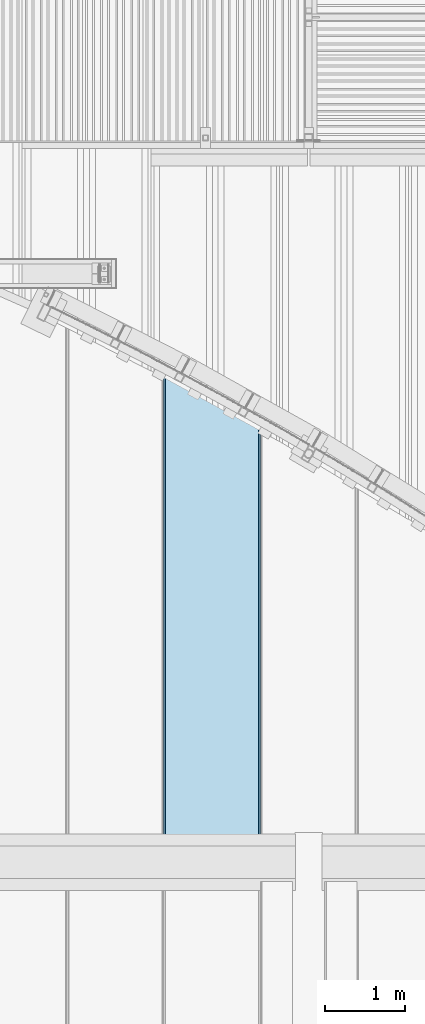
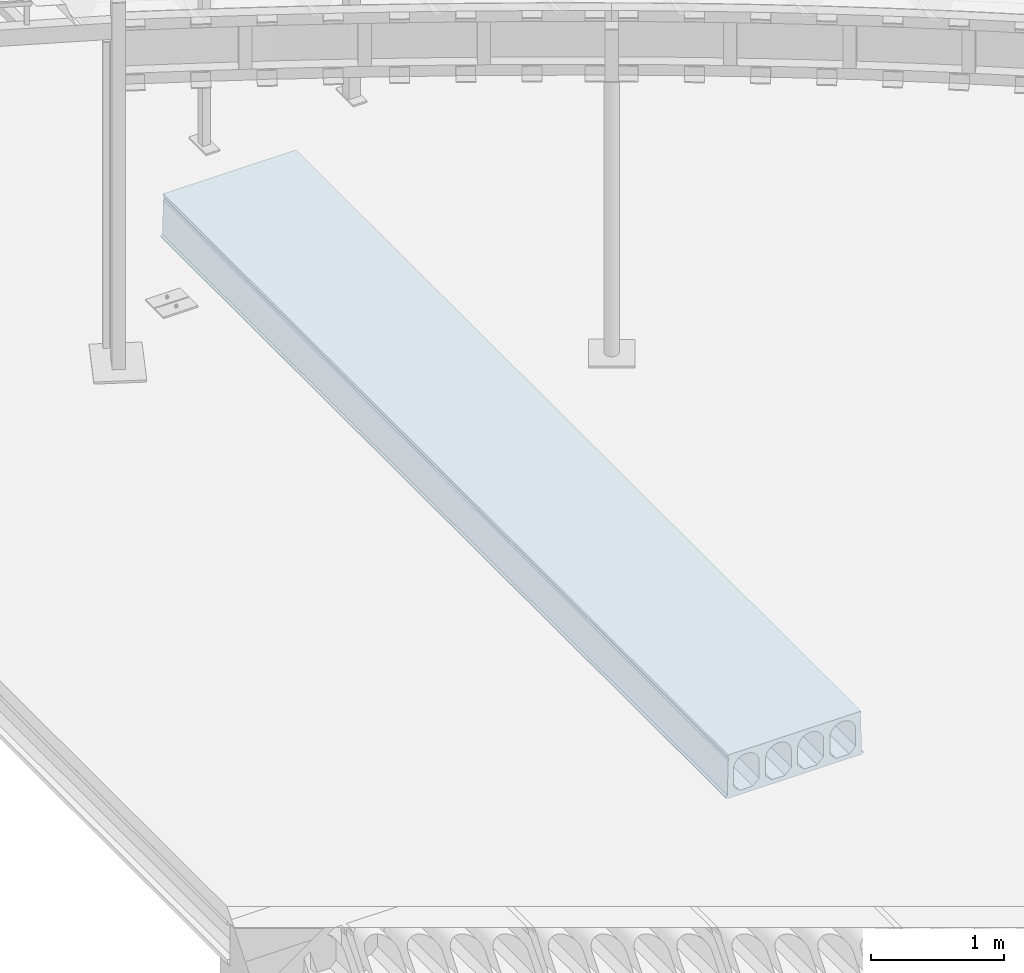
# One storey, part 56 of 98: 1 slab.
"""IFC2X3 building model written with IfcOpenShell, lengths in millimetres."""

from ifc_helpers import new_model, entity, si_unit, converted_unit, derived_unit, direction, frame, origin_with_axes, place, context, subcontext, project, spatial, faceted_brep, material, type_object, element, save


model = new_model("IFC2X3")

# Units and contexts
model_context = context("Model", 3, precision=0.01, world=frame((0.0, 4.29681676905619e-09, 0.0)), true_north=direction((4.01073788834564e-13, 1.0)))
plan_context = context("Plan", 3, precision=0.01, world=frame((0.0, 4.29681676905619e-09, 0.0)), true_north=direction((4.01073788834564e-13, 1.0)))
body_context = subcontext(model_context, "Body", "Model", "MODEL_VIEW")
ifc_project = project(units=[converted_unit("PLANEANGLEUNIT", "DEGREE", entity("IfcPositiveLengthMeasure", 0.0174532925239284), si_unit("PLANEANGLEUNIT", "RADIAN"), dimensions=[0, 0, 0, 0, 0, 0, 0]), si_unit("AREAUNIT", "SQUARE_METRE"), si_unit("LENGTHUNIT", "METRE", prefix="MILLI"), si_unit("MASSUNIT", "GRAM", prefix="KILO"), si_unit("POWERUNIT", "WATT"), si_unit("PRESSUREUNIT", "PASCAL"), si_unit("FORCEUNIT", "NEWTON", prefix="KILO"), si_unit("ELECTRICCURRENTUNIT", "AMPERE"), si_unit("THERMODYNAMICTEMPERATUREUNIT", "DEGREE_CELSIUS"), si_unit("TIMEUNIT", "SECOND"), si_unit("VOLUMEUNIT", "CUBIC_METRE"), derived_unit("LINEARVELOCITYUNIT", [(si_unit("LENGTHUNIT", "METRE"), 1), (si_unit("TIMEUNIT", "SECOND"), -1)]), derived_unit("VOLUMETRICFLOWRATEUNIT", [(si_unit("VOLUMEUNIT", "CUBIC_METRE"), 1), (si_unit("TIMEUNIT", "SECOND"), -1)]), derived_unit("THERMALTRANSMITTANCEUNIT", [(si_unit("POWERUNIT", "WATT"), 1), (si_unit("THERMODYNAMICTEMPERATUREUNIT", "KELVIN"), -1), (si_unit("AREAUNIT", "SQUARE_METRE"), -1)])], contexts=[model_context, plan_context])

# Site, building, storey
site_placement = place(None, frame((0.0, -4.29681676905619e-09, 0.0), z_axis=(0.0, 0.0, 1.0), x_axis=(1.0, 0.0, 0.0)))
site = spatial("IfcSite", under=ifc_project, at=site_placement, Name="Gardermoen", CompositionType="ELEMENT")
building_placement = place(site_placement, frame((0.0, 4.29681676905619e-09, 0.0), z_axis=(0.0, 0.0, 1.0), x_axis=(1.0, 0.0, 0.0)))
building = spatial("IfcBuilding", under=site, at=building_placement, Name="TS", CompositionType="ELEMENT")
storey_placement = place(building_placement, origin_with_axes())
storey = spatial("IfcBuildingStorey", under=building, at=storey_placement, Name="D", CompositionType="ELEMENT", Elevation=0.0)

# Slab
ifc_material = material(Name="CONCRETE/C45/55")
slab_type = type_object("IfcSlabType", Name="HD400", PredefinedType="NOTDEFINED")
slab_placement = place(storey_placement, frame((518799.999766, 405739.995625, 203600.0), z_axis=(0.0, 0.0, 1.0), x_axis=(0.0, 1.0, 0.0)))
element("IfcSlab", 1, at=slab_placement, inside=storey, type_object=slab_type, material=ifc_material, Name="HULLDEKKE", ObjectType="HD400", PredefinedType="FLOOR", context=body_context, shape_type="Brep", body=[
    faceted_brep([(0.0, 600.0, -190.0), (0.0, 600.0, -180.0), (8520.00875000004, 600.0, -180.0), (8520.00875000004, 600.0, -190.0), (0.0, 585.0, -170.0), (8520.00875000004, 585.0, -170.0), (0.0, 577.5, 145.0), (8520.00875000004, 577.5, 145.0), (0.0, 570.0, 160.0), (8520.00875000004, 570.0, 160.0), (0.0, 577.5, 175.0), (8520.00875000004, 577.5, 175.0), (0.0, 577.5, 200.0), (8520.00875000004, 577.5, 200.0), (0.0, -577.5, 200.0), (8520.00875000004, -577.5, 200.0), (0.0, -577.5, 175.0), (8520.00875000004, -577.5, 175.0), (0.0, -570.0, 160.0), (8520.00875000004, -570.0, 160.0), (0.0, -577.5, 145.0), (8520.00875000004, -577.5, 145.0), (0.0, -585.0, -170.0), (8520.00875000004, -585.0, -170.0), (0.0, -600.0, -180.0), (8520.00875000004, -600.0, -180.0), (0.0, -600.0, -190.0), (8520.00875000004, -600.0, -190.0), (0.0, -583.380004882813, -200.0), (8520.00875000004, -583.380004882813, -200.0), (0.0, 583.380004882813, -200.0), (8520.00875000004, 583.380004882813, -200.0), (0.0, -362.5, -160.0), (0.0, -477.5, -160.0), (8520.00875000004, -477.5, -160.0), (8520.00875000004, -362.5, -160.0), (0.0, -532.5, -105.0), (8520.00875000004, -532.5, -105.0), (0.0, -532.5, 47.5), (8520.00875000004, -532.5, 47.5), (0.0, -532.115755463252, 56.7901763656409), (8520.00875000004, -532.115755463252, 56.7901763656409), (0.0, -530.965646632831, 66.0168914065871), (8520.00875000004, -530.965646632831, 66.0168914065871), (0.0, -529.057529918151, 75.1171173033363), (8520.00875000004, -529.057529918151, 75.1171173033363), (0.0, -526.404439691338, 84.028690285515), (8520.00875000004, -526.404439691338, 84.028690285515), (0.0, -523.024499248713, 92.6907352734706), (8520.00875000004, -523.024499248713, 92.6907352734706), (0.0, -518.940797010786, 101.044081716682), (8520.00875000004, -518.940797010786, 101.044081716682), (0.0, -514.181228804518, 109.031667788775), (8520.00875000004, -514.181228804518, 109.031667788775), (0.0, -508.778307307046, 116.598930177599), (8520.00875000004, -508.778307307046, 116.598930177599), (0.0, -502.768939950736, 123.694176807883), (8520.00875000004, -502.768939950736, 123.694176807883), (0.0, -496.194176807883, 130.268939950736), (8520.00875000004, -496.194176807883, 130.268939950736), (0.0, -489.098930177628, 136.278307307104), (8520.00875000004, -489.098930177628, 136.278307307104), (0.0, -481.531667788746, 141.681228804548), (8520.00875000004, -481.531667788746, 141.681228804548), (0.0, -473.544081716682, 146.440797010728), (8520.00875000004, -473.544081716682, 146.440797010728), (0.0, -465.190735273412, 150.524499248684), (8520.00875000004, -465.190735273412, 150.524499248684), (0.0, -456.528690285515, 153.904439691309), (8520.00875000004, -456.528690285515, 153.904439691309), (0.0, -447.617117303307, 156.55752991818), (8520.00875000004, -447.617117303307, 156.55752991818), (0.0, -438.516891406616, 158.465646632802), (8520.00875000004, -438.516891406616, 158.465646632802), (0.0, -429.290176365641, 159.615755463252), (8520.00875000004, -429.290176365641, 159.615755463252), (0.0, -420.0, 160.0), (8520.00875000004, -420.0, 160.0), (0.0, -410.709823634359, 159.615755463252), (8520.00875000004, -410.709823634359, 159.615755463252), (0.0, -401.483108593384, 158.465646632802), (8520.00875000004, -401.483108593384, 158.465646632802), (0.0, -392.382882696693, 156.55752991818), (8520.00875000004, -392.382882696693, 156.55752991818), (0.0, -383.471309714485, 153.904439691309), (8520.00875000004, -383.471309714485, 153.904439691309), (0.0, -374.809264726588, 150.524499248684), (8520.00875000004, -374.809264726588, 150.524499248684), (0.0, -366.455918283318, 146.440797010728), (8520.00875000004, -366.455918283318, 146.440797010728), (0.0, -358.468332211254, 141.681228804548), (8520.00875000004, -358.468332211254, 141.681228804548), (0.0, -350.901069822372, 136.278307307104), (8520.00875000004, -350.901069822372, 136.278307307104), (0.0, -343.805823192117, 130.268939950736), (8520.00875000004, -343.805823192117, 130.268939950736), (0.0, -337.231060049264, 123.694176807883), (8520.00875000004, -337.231060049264, 123.694176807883), (0.0, -331.221692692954, 116.598930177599), (8520.00875000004, -331.221692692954, 116.598930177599), (0.0, -325.818771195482, 109.031667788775), (8520.00875000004, -325.818771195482, 109.031667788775), (0.0, -321.059202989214, 101.044081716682), (8520.00875000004, -321.059202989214, 101.044081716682), (0.0, -316.975500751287, 92.6907352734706), (8520.00875000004, -316.975500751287, 92.6907352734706), (0.0, -313.595560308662, 84.028690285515), (8520.00875000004, -313.595560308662, 84.028690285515), (0.0, -310.942470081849, 75.1171173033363), (8520.00875000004, -310.942470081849, 75.1171173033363), (0.0, -309.034353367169, 66.0168914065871), (8520.00875000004, -309.034353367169, 66.0168914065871), (0.0, -307.884244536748, 56.7901763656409), (8520.00875000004, -307.884244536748, 56.7901763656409), (0.0, -307.5, 47.5), (8520.00875000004, -307.5, 47.5), (0.0, -307.5, -105.0), (8520.00875000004, -307.5, -105.0), (0.0, -82.5, -160.0), (0.0, -197.5, -160.0), (8520.00875000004, -197.5, -160.0), (8520.00875000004, -82.5, -160.0), (0.0, -252.5, -105.0), (8520.00875000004, -252.5, -105.0), (0.0, -252.5, 47.5), (8520.00875000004, -252.5, 47.5), (0.0, -252.115755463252, 56.7901763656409), (8520.00875000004, -252.115755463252, 56.7901763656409), (0.0, -250.965646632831, 66.0168914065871), (8520.00875000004, -250.965646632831, 66.0168914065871), (0.0, -249.057529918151, 75.1171173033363), (8520.00875000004, -249.057529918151, 75.1171173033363), (0.0, -246.404439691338, 84.028690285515), (8520.00875000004, -246.404439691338, 84.028690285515), (0.0, -243.024499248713, 92.6907352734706), (8520.00875000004, -243.024499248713, 92.6907352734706), (0.0, -238.940797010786, 101.044081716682), (8520.00875000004, -238.940797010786, 101.044081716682), (0.0, -234.181228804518, 109.031667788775), (8520.00875000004, -234.181228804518, 109.031667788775), (0.0, -228.778307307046, 116.598930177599), (8520.00875000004, -228.778307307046, 116.598930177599), (0.0, -222.768939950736, 123.694176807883), (8520.00875000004, -222.768939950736, 123.694176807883), (0.0, -216.194176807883, 130.268939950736), (8520.00875000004, -216.194176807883, 130.268939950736), (0.0, -209.098930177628, 136.278307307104), (8520.00875000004, -209.098930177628, 136.278307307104), (0.0, -201.531667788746, 141.681228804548), (8520.00875000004, -201.531667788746, 141.681228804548), (0.0, -193.544081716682, 146.440797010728), (8520.00875000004, -193.544081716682, 146.440797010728), (0.0, -185.190735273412, 150.524499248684), (8520.00875000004, -185.190735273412, 150.524499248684), (0.0, -176.528690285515, 153.904439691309), (8520.00875000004, -176.528690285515, 153.904439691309), (0.0, -167.617117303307, 156.55752991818), (8520.00875000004, -167.617117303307, 156.55752991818), (0.0, -158.516891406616, 158.465646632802), (8520.00875000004, -158.516891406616, 158.465646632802), (0.0, -149.290176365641, 159.615755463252), (8520.00875000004, -149.290176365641, 159.615755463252), (0.0, -140.0, 160.0), (8520.00875000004, -140.0, 160.0), (0.0, -130.709823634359, 159.615755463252), (8520.00875000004, -130.709823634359, 159.615755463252), (0.0, -121.483108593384, 158.465646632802), (8520.00875000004, -121.483108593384, 158.465646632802), (0.0, -112.382882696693, 156.55752991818), (8520.00875000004, -112.382882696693, 156.55752991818), (0.0, -103.471309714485, 153.904439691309), (8520.00875000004, -103.471309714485, 153.904439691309), (0.0, -94.8092647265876, 150.524499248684), (8520.00875000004, -94.8092647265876, 150.524499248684), (0.0, -86.4559182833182, 146.440797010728), (8520.00875000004, -86.4559182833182, 146.440797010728), (0.0, -78.4683322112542, 141.681228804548), (8520.00875000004, -78.4683322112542, 141.681228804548), (0.0, -70.9010698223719, 136.278307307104), (8520.00875000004, -70.9010698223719, 136.278307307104), (0.0, -63.8058231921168, 130.268939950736), (8520.00875000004, -63.8058231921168, 130.268939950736), (0.0, -57.2310600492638, 123.694176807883), (8520.00875000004, -57.2310600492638, 123.694176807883), (0.0, -51.2216926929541, 116.598930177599), (8520.00875000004, -51.2216926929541, 116.598930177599), (0.0, -45.8187711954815, 109.031667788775), (8520.00875000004, -45.8187711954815, 109.031667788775), (0.0, -41.0592029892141, 101.044081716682), (8520.00875000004, -41.0592029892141, 101.044081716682), (0.0, -36.9755007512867, 92.6907352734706), (8520.00875000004, -36.9755007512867, 92.6907352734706), (0.0, -33.5955603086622, 84.028690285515), (8520.00875000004, -33.5955603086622, 84.028690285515), (0.0, -30.942470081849, 75.1171173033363), (8520.00875000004, -30.942470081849, 75.1171173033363), (0.0, -29.0343533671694, 66.0168914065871), (8520.00875000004, -29.0343533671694, 66.0168914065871), (0.0, -27.8842445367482, 56.7901763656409), (8520.00875000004, -27.8842445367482, 56.7901763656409), (0.0, -27.5, 47.5), (8520.00875000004, -27.5, 47.5), (0.0, -27.5, -105.0), (8520.00875000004, -27.5, -105.0), (0.0, 197.5, -160.0), (0.0, 82.5, -160.0), (8520.00875000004, 82.5, -160.0), (8520.00875000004, 197.5, -160.0), (0.0, 27.5, -105.0), (8520.00875000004, 27.5, -105.0), (0.0, 27.5, 47.5), (8520.00875000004, 27.5, 47.5), (0.0, 27.8842445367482, 56.7901763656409), (8520.00875000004, 27.8842445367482, 56.7901763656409), (0.0, 29.0343533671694, 66.0168914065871), (8520.00875000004, 29.0343533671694, 66.0168914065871), (0.0, 30.942470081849, 75.1171173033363), (8520.00875000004, 30.942470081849, 75.1171173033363), (0.0, 33.5955603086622, 84.028690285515), (8520.00875000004, 33.5955603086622, 84.028690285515), (0.0, 36.9755007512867, 92.6907352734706), (8520.00875000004, 36.9755007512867, 92.6907352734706), (0.0, 41.0592029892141, 101.044081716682), (8520.00875000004, 41.0592029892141, 101.044081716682), (0.0, 45.8187711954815, 109.031667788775), (8520.00875000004, 45.8187711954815, 109.031667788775), (0.0, 51.2216926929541, 116.598930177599), (8520.00875000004, 51.2216926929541, 116.598930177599), (0.0, 57.2310600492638, 123.694176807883), (8520.00875000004, 57.2310600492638, 123.694176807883), (0.0, 63.8058231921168, 130.268939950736), (8520.00875000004, 63.8058231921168, 130.268939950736), (0.0, 70.9010698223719, 136.278307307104), (8520.00875000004, 70.9010698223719, 136.278307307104), (0.0, 78.4683322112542, 141.681228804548), (8520.00875000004, 78.4683322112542, 141.681228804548), (0.0, 86.4559182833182, 146.440797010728), (8520.00875000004, 86.4559182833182, 146.440797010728), (0.0, 94.8092647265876, 150.524499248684), (8520.00875000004, 94.8092647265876, 150.524499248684), (0.0, 103.471309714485, 153.904439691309), (8520.00875000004, 103.471309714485, 153.904439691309), (0.0, 112.382882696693, 156.55752991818), (8520.00875000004, 112.382882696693, 156.55752991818), (0.0, 121.483108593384, 158.465646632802), (8520.00875000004, 121.483108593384, 158.465646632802), (0.0, 130.709823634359, 159.615755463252), (8520.00875000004, 130.709823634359, 159.615755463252), (0.0, 140.0, 160.0), (8520.00875000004, 140.0, 160.0), (0.0, 149.290176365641, 159.615755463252), (8520.00875000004, 149.290176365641, 159.615755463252), (0.0, 158.516891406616, 158.465646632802), (8520.00875000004, 158.516891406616, 158.465646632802), (0.0, 167.617117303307, 156.55752991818), (8520.00875000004, 167.617117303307, 156.55752991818), (0.0, 176.528690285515, 153.904439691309), (8520.00875000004, 176.528690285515, 153.904439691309), (0.0, 185.190735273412, 150.524499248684), (8520.00875000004, 185.190735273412, 150.524499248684), (0.0, 193.544081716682, 146.440797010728), (8520.00875000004, 193.544081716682, 146.440797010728), (0.0, 201.531667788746, 141.681228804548), (8520.00875000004, 201.531667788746, 141.681228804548), (0.0, 209.098930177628, 136.278307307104), (8520.00875000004, 209.098930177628, 136.278307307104), (0.0, 216.194176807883, 130.268939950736), (8520.00875000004, 216.194176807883, 130.268939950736), (0.0, 222.768939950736, 123.694176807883), (8520.00875000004, 222.768939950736, 123.694176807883), (0.0, 228.778307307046, 116.598930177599), (8520.00875000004, 228.778307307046, 116.598930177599), (0.0, 234.181228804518, 109.031667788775), (8520.00875000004, 234.181228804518, 109.031667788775), (0.0, 238.940797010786, 101.044081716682), (8520.00875000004, 238.940797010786, 101.044081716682), (0.0, 243.024499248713, 92.6907352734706), (8520.00875000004, 243.024499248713, 92.6907352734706), (0.0, 246.404439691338, 84.028690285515), (8520.00875000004, 246.404439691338, 84.028690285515), (0.0, 249.057529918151, 75.1171173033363), (8520.00875000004, 249.057529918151, 75.1171173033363), (0.0, 250.965646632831, 66.0168914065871), (8520.00875000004, 250.965646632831, 66.0168914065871), (0.0, 252.115755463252, 56.7901763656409), (8520.00875000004, 252.115755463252, 56.7901763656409), (0.0, 252.5, 47.5), (8520.00875000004, 252.5, 47.5), (0.0, 252.5, -105.0), (8520.00875000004, 252.5, -105.0), (0.0, 477.5, -160.0), (0.0, 362.5, -160.0), (8520.00875000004, 362.5, -160.0), (8520.00875000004, 477.5, -160.0), (0.0, 307.5, -105.0), (8520.00875000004, 307.5, -105.0), (0.0, 307.5, 47.5), (8520.00875000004, 307.5, 47.5), (0.0, 307.884244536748, 56.7901763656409), (8520.00875000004, 307.884244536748, 56.7901763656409), (0.0, 309.034353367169, 66.0168914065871), (8520.00875000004, 309.034353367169, 66.0168914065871), (0.0, 310.942470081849, 75.1171173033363), (8520.00875000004, 310.942470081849, 75.1171173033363), (0.0, 313.595560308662, 84.028690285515), (8520.00875000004, 313.595560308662, 84.028690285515), (0.0, 316.975500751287, 92.6907352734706), (8520.00875000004, 316.975500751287, 92.6907352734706), (0.0, 321.059202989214, 101.044081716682), (8520.00875000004, 321.059202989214, 101.044081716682), (0.0, 325.818771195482, 109.031667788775), (8520.00875000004, 325.818771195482, 109.031667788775), (0.0, 331.221692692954, 116.598930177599), (8520.00875000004, 331.221692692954, 116.598930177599), (0.0, 337.231060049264, 123.694176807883), (8520.00875000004, 337.231060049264, 123.694176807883), (0.0, 343.805823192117, 130.268939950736), (8520.00875000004, 343.805823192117, 130.268939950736), (0.0, 350.901069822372, 136.278307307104), (8520.00875000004, 350.901069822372, 136.278307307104), (0.0, 358.468332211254, 141.681228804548), (8520.00875000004, 358.468332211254, 141.681228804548), (0.0, 366.455918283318, 146.440797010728), (8520.00875000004, 366.455918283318, 146.440797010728), (0.0, 374.809264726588, 150.524499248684), (8520.00875000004, 374.809264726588, 150.524499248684), (0.0, 383.471309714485, 153.904439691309), (8520.00875000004, 383.471309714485, 153.904439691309), (0.0, 392.382882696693, 156.55752991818), (8520.00875000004, 392.382882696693, 156.55752991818), (0.0, 401.483108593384, 158.465646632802), (8520.00875000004, 401.483108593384, 158.465646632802), (0.0, 410.709823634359, 159.615755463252), (8520.00875000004, 410.709823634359, 159.615755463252), (0.0, 420.0, 160.0), (8520.00875000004, 420.0, 160.0), (0.0, 429.290176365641, 159.615755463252), (8520.00875000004, 429.290176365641, 159.615755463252), (0.0, 438.516891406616, 158.465646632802), (8520.00875000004, 438.516891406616, 158.465646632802), (0.0, 447.617117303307, 156.55752991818), (8520.00875000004, 447.617117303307, 156.55752991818), (0.0, 456.528690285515, 153.904439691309), (8520.00875000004, 456.528690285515, 153.904439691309), (0.0, 465.190735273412, 150.524499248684), (8520.00875000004, 465.190735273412, 150.524499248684), (0.0, 473.544081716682, 146.440797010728), (8520.00875000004, 473.544081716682, 146.440797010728), (0.0, 481.531667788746, 141.681228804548), (8520.00875000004, 481.531667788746, 141.681228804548), (0.0, 489.098930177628, 136.278307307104), (8520.00875000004, 489.098930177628, 136.278307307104), (0.0, 496.194176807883, 130.268939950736), (8520.00875000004, 496.194176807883, 130.268939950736), (0.0, 502.768939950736, 123.694176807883), (8520.00875000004, 502.768939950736, 123.694176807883), (0.0, 508.778307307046, 116.598930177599), (8520.00875000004, 508.778307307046, 116.598930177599), (0.0, 514.181228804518, 109.031667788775), (8520.00875000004, 514.181228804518, 109.031667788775), (0.0, 518.940797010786, 101.044081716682), (8520.00875000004, 518.940797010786, 101.044081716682), (0.0, 523.024499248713, 92.6907352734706), (8520.00875000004, 523.024499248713, 92.6907352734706), (0.0, 526.404439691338, 84.028690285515), (8520.00875000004, 526.404439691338, 84.028690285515), (0.0, 529.057529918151, 75.1171173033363), (8520.00875000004, 529.057529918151, 75.1171173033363), (0.0, 530.965646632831, 66.0168914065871), (8520.00875000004, 530.965646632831, 66.0168914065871), (0.0, 532.115755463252, 56.7901763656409), (8520.00875000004, 532.115755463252, 56.7901763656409), (0.0, 532.5, 47.5), (8520.00875000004, 532.5, 47.5), (0.0, 532.5, -105.0), (8520.00875000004, 532.5, -105.0)], [[[0, 1, 2, 3]], [[1, 4, 5, 2]], [[4, 6, 7, 5]], [[6, 8, 9, 7]], [[8, 10, 11, 9]], [[10, 12, 13, 11]], [[12, 14, 15, 13]], [[14, 16, 17, 15]], [[16, 18, 19, 17]], [[18, 20, 21, 19]], [[20, 22, 23, 21]], [[22, 24, 25, 23]], [[24, 26, 27, 25]], [[26, 28, 29, 27]], [[28, 30, 31, 29]], [[30, 0, 3, 31]], [[32, 33, 34, 35]], [[33, 36, 37, 34]], [[36, 38, 39, 37]], [[38, 40, 41, 39]], [[40, 42, 43, 41]], [[42, 44, 45, 43]], [[44, 46, 47, 45]], [[46, 48, 49, 47]], [[48, 50, 51, 49]], [[50, 52, 53, 51]], [[52, 54, 55, 53]], [[54, 56, 57, 55]], [[56, 58, 59, 57]], [[58, 60, 61, 59]], [[60, 62, 63, 61]], [[62, 64, 65, 63]], [[64, 66, 67, 65]], [[66, 68, 69, 67]], [[68, 70, 71, 69]], [[70, 72, 73, 71]], [[72, 74, 75, 73]], [[74, 76, 77, 75]], [[76, 78, 79, 77]], [[78, 80, 81, 79]], [[80, 82, 83, 81]], [[82, 84, 85, 83]], [[84, 86, 87, 85]], [[86, 88, 89, 87]], [[88, 90, 91, 89]], [[90, 92, 93, 91]], [[92, 94, 95, 93]], [[94, 96, 97, 95]], [[96, 98, 99, 97]], [[98, 100, 101, 99]], [[100, 102, 103, 101]], [[102, 104, 105, 103]], [[104, 106, 107, 105]], [[106, 108, 109, 107]], [[108, 110, 111, 109]], [[110, 112, 113, 111]], [[112, 114, 115, 113]], [[114, 116, 117, 115]], [[116, 32, 35, 117]], [[118, 119, 120, 121]], [[119, 122, 123, 120]], [[122, 124, 125, 123]], [[124, 126, 127, 125]], [[126, 128, 129, 127]], [[128, 130, 131, 129]], [[130, 132, 133, 131]], [[132, 134, 135, 133]], [[134, 136, 137, 135]], [[136, 138, 139, 137]], [[138, 140, 141, 139]], [[140, 142, 143, 141]], [[142, 144, 145, 143]], [[144, 146, 147, 145]], [[146, 148, 149, 147]], [[148, 150, 151, 149]], [[150, 152, 153, 151]], [[152, 154, 155, 153]], [[154, 156, 157, 155]], [[156, 158, 159, 157]], [[158, 160, 161, 159]], [[160, 162, 163, 161]], [[162, 164, 165, 163]], [[164, 166, 167, 165]], [[166, 168, 169, 167]], [[168, 170, 171, 169]], [[170, 172, 173, 171]], [[172, 174, 175, 173]], [[174, 176, 177, 175]], [[176, 178, 179, 177]], [[178, 180, 181, 179]], [[180, 182, 183, 181]], [[182, 184, 185, 183]], [[184, 186, 187, 185]], [[186, 188, 189, 187]], [[188, 190, 191, 189]], [[190, 192, 193, 191]], [[192, 194, 195, 193]], [[194, 196, 197, 195]], [[196, 198, 199, 197]], [[198, 200, 201, 199]], [[200, 202, 203, 201]], [[202, 118, 121, 203]], [[204, 205, 206, 207]], [[205, 208, 209, 206]], [[208, 210, 211, 209]], [[210, 212, 213, 211]], [[212, 214, 215, 213]], [[214, 216, 217, 215]], [[216, 218, 219, 217]], [[218, 220, 221, 219]], [[220, 222, 223, 221]], [[222, 224, 225, 223]], [[224, 226, 227, 225]], [[226, 228, 229, 227]], [[228, 230, 231, 229]], [[230, 232, 233, 231]], [[232, 234, 235, 233]], [[234, 236, 237, 235]], [[236, 238, 239, 237]], [[238, 240, 241, 239]], [[240, 242, 243, 241]], [[242, 244, 245, 243]], [[244, 246, 247, 245]], [[246, 248, 249, 247]], [[248, 250, 251, 249]], [[250, 252, 253, 251]], [[252, 254, 255, 253]], [[254, 256, 257, 255]], [[256, 258, 259, 257]], [[258, 260, 261, 259]], [[260, 262, 263, 261]], [[262, 264, 265, 263]], [[264, 266, 267, 265]], [[266, 268, 269, 267]], [[268, 270, 271, 269]], [[270, 272, 273, 271]], [[272, 274, 275, 273]], [[274, 276, 277, 275]], [[276, 278, 279, 277]], [[278, 280, 281, 279]], [[280, 282, 283, 281]], [[282, 284, 285, 283]], [[284, 286, 287, 285]], [[286, 288, 289, 287]], [[288, 204, 207, 289]], [[290, 291, 292, 293]], [[291, 294, 295, 292]], [[294, 296, 297, 295]], [[296, 298, 299, 297]], [[298, 300, 301, 299]], [[300, 302, 303, 301]], [[302, 304, 305, 303]], [[304, 306, 307, 305]], [[306, 308, 309, 307]], [[308, 310, 311, 309]], [[310, 312, 313, 311]], [[312, 314, 315, 313]], [[314, 316, 317, 315]], [[316, 318, 319, 317]], [[318, 320, 321, 319]], [[320, 322, 323, 321]], [[322, 324, 325, 323]], [[324, 326, 327, 325]], [[326, 328, 329, 327]], [[328, 330, 331, 329]], [[330, 332, 333, 331]], [[332, 334, 335, 333]], [[334, 336, 337, 335]], [[336, 338, 339, 337]], [[338, 340, 341, 339]], [[340, 342, 343, 341]], [[342, 344, 345, 343]], [[344, 346, 347, 345]], [[346, 348, 349, 347]], [[348, 350, 351, 349]], [[350, 352, 353, 351]], [[352, 354, 355, 353]], [[354, 356, 357, 355]], [[356, 358, 359, 357]], [[358, 360, 361, 359]], [[360, 362, 363, 361]], [[362, 364, 365, 363]], [[364, 366, 367, 365]], [[366, 368, 369, 367]], [[368, 370, 371, 369]], [[370, 372, 373, 371]], [[372, 374, 375, 373]], [[374, 290, 293, 375]], [[5, 7, 9, 11, 13, 15, 17, 19, 21, 23, 25, 27, 29, 31, 3, 2], [295, 297, 299, 301, 303, 305, 307, 309, 311, 313, 315, 317, 319, 321, 323, 325, 327, 329, 331, 333, 335, 337, 339, 341, 343, 345, 347, 349, 351, 353, 355, 357, 359, 361, 363, 365, 367, 369, 371, 373, 375, 293, 292], [209, 211, 213, 215, 217, 219, 221, 223, 225, 227, 229, 231, 233, 235, 237, 239, 241, 243, 245, 247, 249, 251, 253, 255, 257, 259, 261, 263, 265, 267, 269, 271, 273, 275, 277, 279, 281, 283, 285, 287, 289, 207, 206], [123, 125, 127, 129, 131, 133, 135, 137, 139, 141, 143, 145, 147, 149, 151, 153, 155, 157, 159, 161, 163, 165, 167, 169, 171, 173, 175, 177, 179, 181, 183, 185, 187, 189, 191, 193, 195, 197, 199, 201, 203, 121, 120], [37, 39, 41, 43, 45, 47, 49, 51, 53, 55, 57, 59, 61, 63, 65, 67, 69, 71, 73, 75, 77, 79, 81, 83, 85, 87, 89, 91, 93, 95, 97, 99, 101, 103, 105, 107, 109, 111, 113, 115, 117, 35, 34]], [[30, 28, 26, 24, 22, 20, 18, 16, 14, 12, 10, 8, 6, 4, 1, 0], [374, 372, 370, 368, 366, 364, 362, 360, 358, 356, 354, 352, 350, 348, 346, 344, 342, 340, 338, 336, 334, 332, 330, 328, 326, 324, 322, 320, 318, 316, 314, 312, 310, 308, 306, 304, 302, 300, 298, 296, 294, 291, 290], [288, 286, 284, 282, 280, 278, 276, 274, 272, 270, 268, 266, 264, 262, 260, 258, 256, 254, 252, 250, 248, 246, 244, 242, 240, 238, 236, 234, 232, 230, 228, 226, 224, 222, 220, 218, 216, 214, 212, 210, 208, 205, 204], [202, 200, 198, 196, 194, 192, 190, 188, 186, 184, 182, 180, 178, 176, 174, 172, 170, 168, 166, 164, 162, 160, 158, 156, 154, 152, 150, 148, 146, 144, 142, 140, 138, 136, 134, 132, 130, 128, 126, 124, 122, 119, 118], [116, 114, 112, 110, 108, 106, 104, 102, 100, 98, 96, 94, 92, 90, 88, 86, 84, 82, 80, 78, 76, 74, 72, 70, 68, 66, 64, 62, 60, 58, 56, 54, 52, 50, 48, 46, 44, 42, 40, 38, 36, 33, 32]]]),
])

save(model, "model.ifc")
